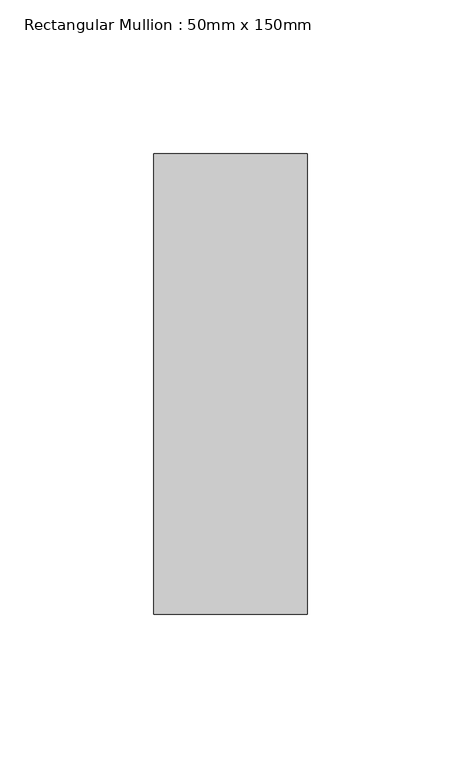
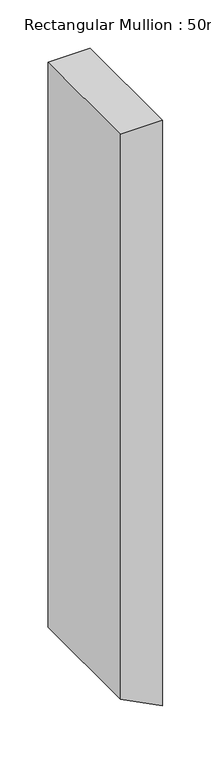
"""IFC4 building model written with IfcOpenShell, lengths in millimetres: member geometry, Rectangular Mullion : 50mm x 150mm."""

from ifc_helpers import new_model, si_unit, frame, origin, place, context, project, spatial, polyline, outline, extrude, source, transform, mapped, element, save


def rectangular_mullion_50mm_x_150mm_c1d4a15c(model_context):
    return source(origin(), model_context, "Body", "SweptSolid", [
        extrude(outline(polyline([(0.0, 0.0), (0.0, -50.0), (-712.7055465, -50.0), (-738.3746542, 0.0), (0.0, 0.0)])), frame((0.0, -75.0, 0.0), z_axis=(0.0, 1.0, 0.0), x_axis=(0.0, 0.0, 1.0)), (0.0, 0.0, 1.0), 150.0),
    ])


if __name__ == "__main__":
    model = new_model("IFC4")
    model_context = context("Model", 3, world=origin())
    ifc_project = project(units=[si_unit("LENGTHUNIT", "METRE", prefix="MILLI")], contexts=[model_context])
    site = spatial("IfcSite", under=ifc_project)
    building = spatial("IfcBuilding", under=site)
    placement = place(None, origin())
    rectangular_mullion_50mm_x_150mm_shape = rectangular_mullion_50mm_x_150mm_c1d4a15c(model_context)
    element("IfcMember", 1, ObjectType="Rectangular Mullion : 50mm x 150mm", at=placement, inside=building, context=model_context, shape_type="MappedRepresentation", body=[
        mapped(rectangular_mullion_50mm_x_150mm_shape, transform((0.0, 0.0, 0.0), x_axis=(1.0, 0.0, 0.0), y_axis=(0.0, 1.0, 0.0), z_axis=(0.0, 0.0, 1.0))),
    ])
    save(model, "model.ifc")
